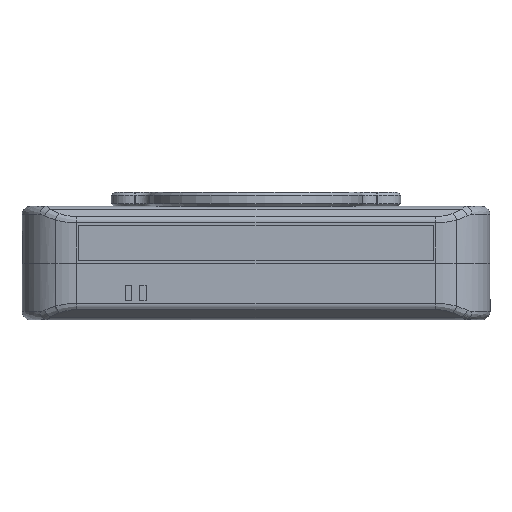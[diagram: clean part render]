
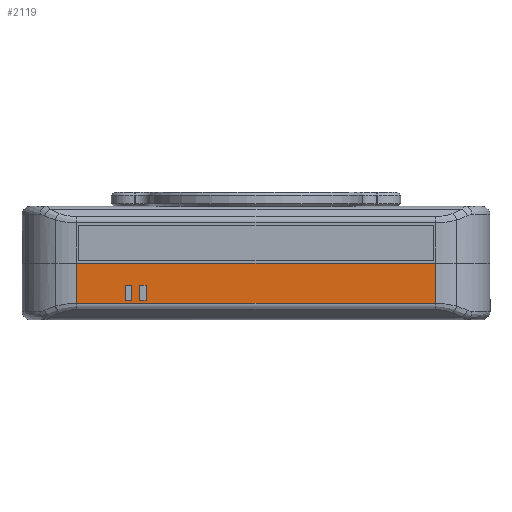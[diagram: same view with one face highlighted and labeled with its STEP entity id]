
A CAD part, front view. The second image highlights one B-rep face of the part: STEP entity #2119.
In plain terms, the highlighted planar face has unit normal (0, -1, 0).
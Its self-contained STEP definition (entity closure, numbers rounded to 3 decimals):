
#103 = LINE ( 'NONE', #4950, #18475 ) ;
#199 = EDGE_CURVE ( 'NONE', #540, #11919, #7994, .T. ) ;
#540 = VERTEX_POINT ( 'NONE', #20217 ) ;
#966 = CARTESIAN_POINT ( 'NONE',  ( 45.911, -128.937, 237.615 ) ) ;
#1023 = VECTOR ( 'NONE', #15132, 1000. ) ;
#1443 = DIRECTION ( 'NONE',  ( -1., 0., 0. ) ) ;
#1456 = LINE ( 'NONE', #4627, #7853 ) ;
#1681 = ORIENTED_EDGE ( 'NONE', *, *, #8687, .T. ) ;
#1746 = ORIENTED_EDGE ( 'NONE', *, *, #19322, .F. ) ;
#2095 = DIRECTION ( 'NONE',  ( 0., 0., 1. ) ) ;
#2118 = CARTESIAN_POINT ( 'NONE',  ( -63.39, -128.937, 229.752 ) ) ;
#2119 = ADVANCED_FACE ( 'NONE', ( #11566, #7123, #16615 ), #8126, .T. ) ;
#2388 = EDGE_LOOP ( 'NONE', ( #5529, #18668, #1681, #14589 ) ) ;
#2898 = VECTOR ( 'NONE', #4893, 1000. ) ;
#2984 = ORIENTED_EDGE ( 'NONE', *, *, #199, .T. ) ;
#3188 = CARTESIAN_POINT ( 'NONE',  ( 65.166, -128.937, 229.752 ) ) ;
#3406 = EDGE_CURVE ( 'NONE', #11658, #19773, #16038, .T. ) ;
#3425 = VECTOR ( 'NONE', #2095, 1000. ) ;
#3543 = LINE ( 'NONE', #17147, #1023 ) ;
#3692 = VERTEX_POINT ( 'NONE', #2118 ) ;
#4196 = VERTEX_POINT ( 'NONE', #7195 ) ;
#4365 = EDGE_CURVE ( 'NONE', #7532, #540, #3543, .T. ) ;
#4488 = VERTEX_POINT ( 'NONE', #6626 ) ;
#4627 = CARTESIAN_POINT ( 'NONE',  ( -15.597, -128.937, 237.615 ) ) ;
#4732 = CARTESIAN_POINT ( 'NONE',  ( 45.911, -128.937, 237.615 ) ) ;
#4893 = DIRECTION ( 'NONE',  ( 1., 0., 0. ) ) ;
#4950 = CARTESIAN_POINT ( 'NONE',  ( 65.166, -128.937, 224.432 ) ) ;
#5529 = ORIENTED_EDGE ( 'NONE', *, *, #18004, .T. ) ;
#5640 = EDGE_CURVE ( 'NONE', #10900, #22794, #13540, .T. ) ;
#5949 = EDGE_CURVE ( 'NONE', #4196, #4488, #103, .T. ) ;
#6626 = CARTESIAN_POINT ( 'NONE',  ( -63.39, -128.937, 224.432 ) ) ;
#6646 = DIRECTION ( 'NONE',  ( 0., 0., 1. ) ) ;
#7045 = LINE ( 'NONE', #7435, #12350 ) ;
#7120 = EDGE_LOOP ( 'NONE', ( #10720, #11587, #13465, #18025 ) ) ;
#7123 = FACE_BOUND ( 'NONE', #7120, .T. ) ;
#7195 = CARTESIAN_POINT ( 'NONE',  ( -61.07, -128.937, 224.432 ) ) ;
#7435 = CARTESIAN_POINT ( 'NONE',  ( -61.07, -128.937, 222.123 ) ) ;
#7532 = VERTEX_POINT ( 'NONE', #8566 ) ;
#7632 = CARTESIAN_POINT ( 'NONE',  ( 65.166, -128.937, 224.432 ) ) ;
#7853 = VECTOR ( 'NONE', #22152, 1000. ) ;
#7994 = LINE ( 'NONE', #20791, #13581 ) ;
#8126 = PLANE ( 'NONE',  #21902 ) ;
#8566 = CARTESIAN_POINT ( 'NONE',  ( -80.58, -128.937, 237.615 ) ) ;
#8687 = EDGE_CURVE ( 'NONE', #12426, #4196, #7045, .T. ) ;
#9008 = CARTESIAN_POINT ( 'NONE',  ( -63.39, -128.937, 222.123 ) ) ;
#9593 = LINE ( 'NONE', #7632, #22081 ) ;
#10337 = EDGE_CURVE ( 'NONE', #22165, #11919, #17574, .T. ) ;
#10510 = CARTESIAN_POINT ( 'NONE',  ( -58.39, -128.937, 222.123 ) ) ;
#10710 = VECTOR ( 'NONE', #6646, 1000. ) ;
#10720 = ORIENTED_EDGE ( 'NONE', *, *, #16957, .T. ) ;
#10900 = VERTEX_POINT ( 'NONE', #14056 ) ;
#11183 = CARTESIAN_POINT ( 'NONE',  ( -56.07, -128.937, 224.432 ) ) ;
#11566 = FACE_OUTER_BOUND ( 'NONE', #15070, .T. ) ;
#11587 = ORIENTED_EDGE ( 'NONE', *, *, #5640, .T. ) ;
#11658 = VERTEX_POINT ( 'NONE', #15801 ) ;
#11919 = VERTEX_POINT ( 'NONE', #19681 ) ;
#12350 = VECTOR ( 'NONE', #12966, 1000. ) ;
#12426 = VERTEX_POINT ( 'NONE', #17837 ) ;
#12676 = VECTOR ( 'NONE', #21433, 1000. ) ;
#12834 = VECTOR ( 'NONE', #18778, 1000. ) ;
#12966 = DIRECTION ( 'NONE',  ( 0., 0., -1. ) ) ;
#13331 = EDGE_CURVE ( 'NONE', #3692, #12426, #16284, .T. ) ;
#13432 = DIRECTION ( 'NONE',  ( 1., 0., 0. ) ) ;
#13433 = CARTESIAN_POINT ( 'NONE',  ( 65.166, -128.937, 222.123 ) ) ;
#13465 = ORIENTED_EDGE ( 'NONE', *, *, #15915, .T. ) ;
#13519 = DIRECTION ( 'NONE',  ( 0., -1., 0. ) ) ;
#13540 = LINE ( 'NONE', #21509, #12676 ) ;
#13581 = VECTOR ( 'NONE', #13432, 1000. ) ;
#13916 = ORIENTED_EDGE ( 'NONE', *, *, #10337, .F. ) ;
#14056 = CARTESIAN_POINT ( 'NONE',  ( -56.07, -128.937, 229.752 ) ) ;
#14589 = ORIENTED_EDGE ( 'NONE', *, *, #5949, .T. ) ;
#15070 = EDGE_LOOP ( 'NONE', ( #21011, #2984, #13916, #1746 ) ) ;
#15132 = DIRECTION ( 'NONE',  ( 0., 0., -1. ) ) ;
#15801 = CARTESIAN_POINT ( 'NONE',  ( -58.39, -128.937, 224.432 ) ) ;
#15915 = EDGE_CURVE ( 'NONE', #22794, #11658, #9593, .T. ) ;
#16038 = LINE ( 'NONE', #10510, #10710 ) ;
#16284 = LINE ( 'NONE', #17928, #17009 ) ;
#16404 = CARTESIAN_POINT ( 'NONE',  ( -58.39, -128.937, 229.752 ) ) ;
#16501 = LINE ( 'NONE', #9008, #3425 ) ;
#16615 = FACE_BOUND ( 'NONE', #2388, .T. ) ;
#16748 = DIRECTION ( 'NONE',  ( -1., 0., 0. ) ) ;
#16957 = EDGE_CURVE ( 'NONE', #19773, #10900, #20097, .T. ) ;
#17009 = VECTOR ( 'NONE', #17785, 1000. ) ;
#17147 = CARTESIAN_POINT ( 'NONE',  ( -80.58, -128.937, 222.123 ) ) ;
#17574 = LINE ( 'NONE', #4732, #12834 ) ;
#17785 = DIRECTION ( 'NONE',  ( 1., 0., 0. ) ) ;
#17837 = CARTESIAN_POINT ( 'NONE',  ( -61.07, -128.937, 229.752 ) ) ;
#17928 = CARTESIAN_POINT ( 'NONE',  ( 65.166, -128.937, 229.752 ) ) ;
#18004 = EDGE_CURVE ( 'NONE', #4488, #3692, #16501, .T. ) ;
#18025 = ORIENTED_EDGE ( 'NONE', *, *, #3406, .T. ) ;
#18475 = VECTOR ( 'NONE', #1443, 1000. ) ;
#18668 = ORIENTED_EDGE ( 'NONE', *, *, #13331, .T. ) ;
#18697 = DIRECTION ( 'NONE',  ( 0., 0., 1. ) ) ;
#18778 = DIRECTION ( 'NONE',  ( 0., 0., -1. ) ) ;
#19322 = EDGE_CURVE ( 'NONE', #7532, #22165, #1456, .T. ) ;
#19681 = CARTESIAN_POINT ( 'NONE',  ( 45.911, -128.937, 223.432 ) ) ;
#19773 = VERTEX_POINT ( 'NONE', #16404 ) ;
#20097 = LINE ( 'NONE', #3188, #2898 ) ;
#20217 = CARTESIAN_POINT ( 'NONE',  ( -80.58, -128.937, 223.432 ) ) ;
#20791 = CARTESIAN_POINT ( 'NONE',  ( 65.166, -128.937, 223.432 ) ) ;
#21011 = ORIENTED_EDGE ( 'NONE', *, *, #4365, .T. ) ;
#21433 = DIRECTION ( 'NONE',  ( 0., 0., -1. ) ) ;
#21509 = CARTESIAN_POINT ( 'NONE',  ( -56.07, -128.937, 222.123 ) ) ;
#21902 = AXIS2_PLACEMENT_3D ( 'NONE', #13433, #13519, #18697 ) ;
#22081 = VECTOR ( 'NONE', #16748, 1000. ) ;
#22152 = DIRECTION ( 'NONE',  ( 1., 0., 0. ) ) ;
#22165 = VERTEX_POINT ( 'NONE', #966 ) ;
#22794 = VERTEX_POINT ( 'NONE', #11183 ) ;
